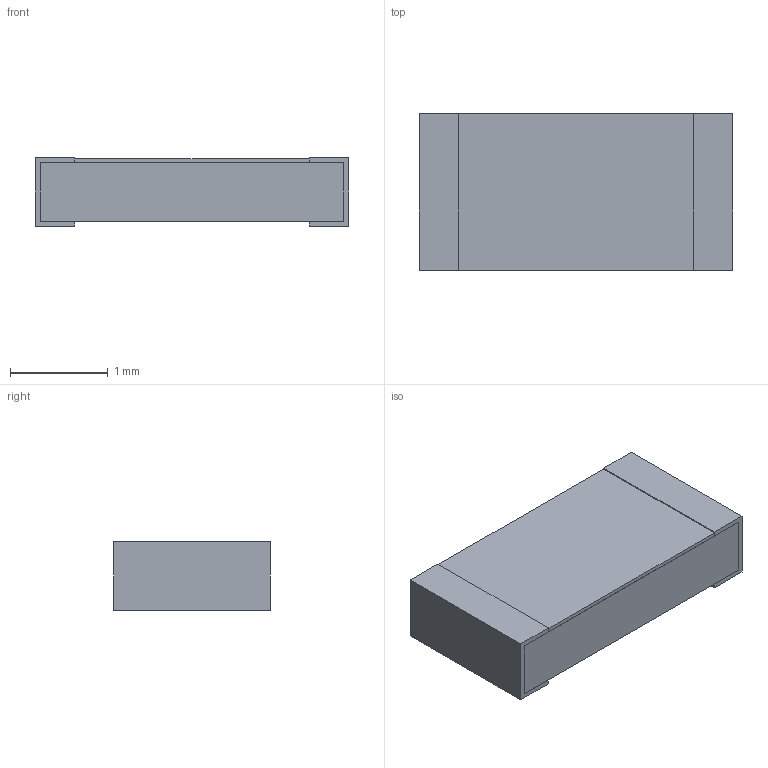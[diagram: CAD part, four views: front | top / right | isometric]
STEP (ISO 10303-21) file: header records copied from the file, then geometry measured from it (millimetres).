
FILE_DESCRIPTION(('STEP AP203'), '1');
FILE_NAME('Ð1-16-0,125Ï', '', ('UNSPECIFIED'), ('UNSPECIFIED'), 'ASCON STEP Converter 1.6', 'ASCON Math Kernel', '');
FILE_SCHEMA(('CONFIG_CONTROL_DESIGN'));
Length unit declared in the file: millimetre
Bounding box: 3.2 x 1.6 x 0.7 mm (x, y, z)
Volume: 3.4 mm3; surface area: 33.1 mm2
Topology: 4 solids, 4 shells, 32 faces, 72 edges, 48 vertices
Faces by surface type: plane 32
Entity records: 1194 total; most frequent: CARTESIAN_POINT 153, ORIENTED_EDGE 144, DIRECTION 138, EDGE_CURVE 72, LINE 72, VECTOR 72, VERTEX_POINT 48, COLOUR_RGB 36
